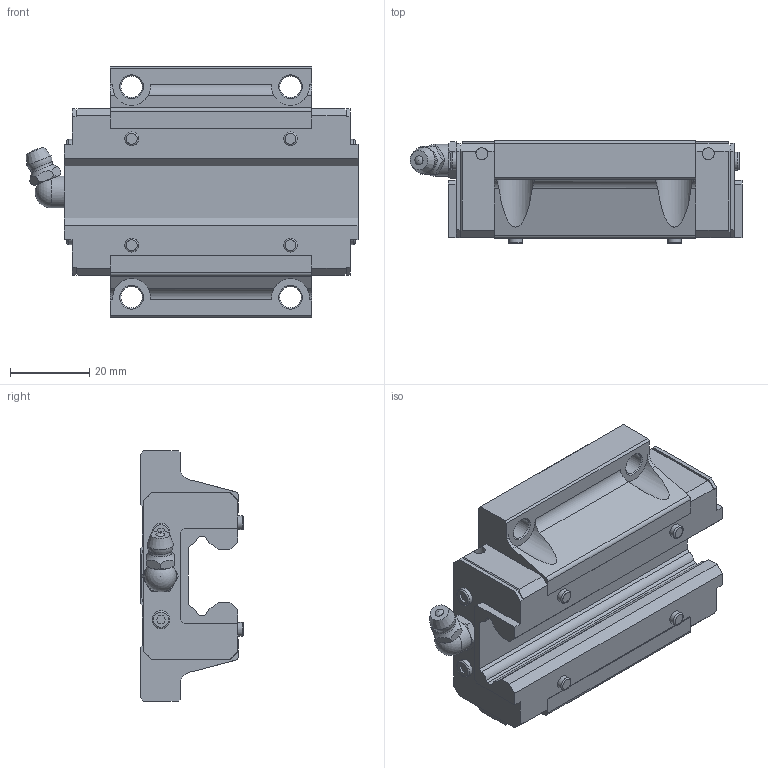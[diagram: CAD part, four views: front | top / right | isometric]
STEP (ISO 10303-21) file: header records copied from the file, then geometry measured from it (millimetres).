
FILE_DESCRIPTION(/* description */ ('STEP AP203'),/* implementation_level */ '2;1');
FILE_NAME(/* name */ 'HSR20C1SS(GK) BLOCK(1B-M6F)',/* time_stamp */ '2024-05-21T04:55:01+02:00',/* author */ ('License CC BY-ND 4.0'),/* organization */ ('CADENAS'),/* preprocessor_version */ 'ST-DEVELOPER v19.3',/* originating_system */ 'PARTsolutions',/* authorisation */ ' ');
FILE_SCHEMA (('CONFIG_CONTROL_DESIGN'));
Length unit declared in the file: millimetre
Products named in the file (3): HSR20C1SS(GK) BLOCK(1B-M6F); HSR20CSSB-M6F11 S; hsr_ftht_B-M6F_grease_nipple_joint
Assembly tree (2 placements, depth 2):
  HSR20C1SS(GK) BLOCK(1B-M6F)
    HSR20CSSB-M6F11 S
    hsr_ftht_B-M6F_grease_nipple_joint
Bounding box: 83.6 x 26 x 63 mm (x, y, z)
Volume: 70425.7 mm3; surface area: 17336.3 mm2
Topology: 2 solids, 2 shells, 250 faces, 662 edges, 431 vertices
Faces by surface type: plane 174, cylinder 42, cone 21, torus 10, sphere 3
Full cylindrical faces by diameter (mm): 3 x4, 3.43 x4, 4.5 x4, 4.917 x2, 5.4 x4, 6 x3, 8 x1
Entity records: 7393 total; most frequent: CARTESIAN_POINT 1382, DIRECTION 1192, ORIENTED_EDGE 1184, EDGE_CURVE 592, LINE 434, VECTOR 434, VERTEX_POINT 413, AXIS2_PLACEMENT_3D 379
